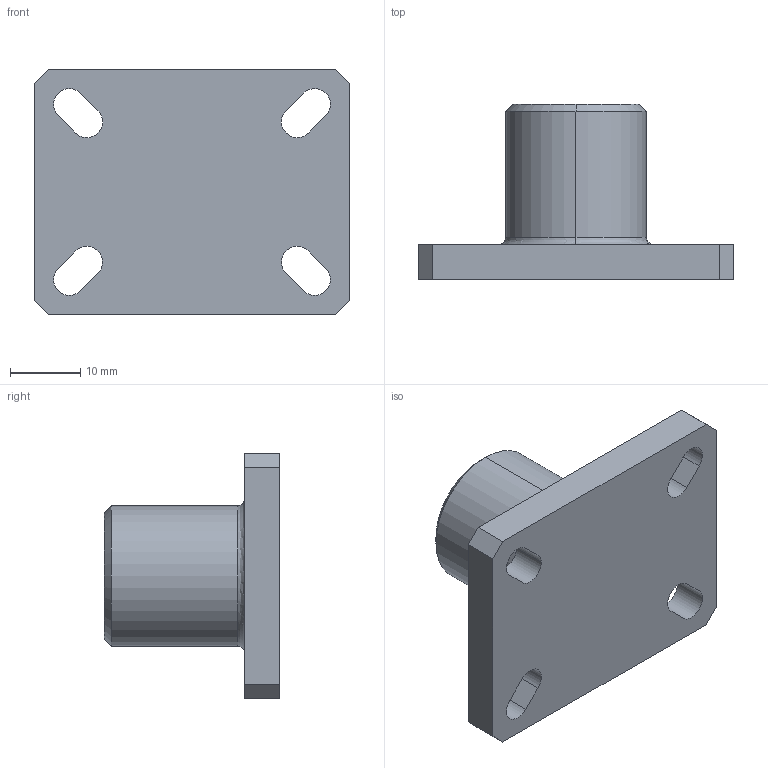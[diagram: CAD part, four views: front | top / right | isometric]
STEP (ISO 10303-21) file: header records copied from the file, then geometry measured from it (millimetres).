
FILE_DESCRIPTION (( 'STEP AP214' ), '1' );
FILE_NAME ('SCE2-1015.STEP', '2019-11-07T06:40:09', ( '微软用户' ), ( '微软中国' ), 'SwSTEP 2.0', 'SolidWorks 2016', '' );
FILE_SCHEMA (( 'AUTOMOTIVE_DESIGN' ));
Length unit declared in the file: millimetre
Products named in the file (1): SCE2-1015
Bounding box: 45 x 25 x 35 mm (x, y, z)
Volume: 13465.3 mm3; surface area: 5272 mm2
Topology: 1 solids, 1 shells, 37 faces, 98 edges, 64 vertices
Faces by surface type: plane 19, cylinder 14, cone 2, bspline 2
Entity records: 1502 total; most frequent: CARTESIAN_POINT 520, ORIENTED_EDGE 196, DIRECTION 196, EDGE_CURVE 98, AXIS2_PLACEMENT_3D 66, VERTEX_POINT 64, VECTOR 64, LINE 64
